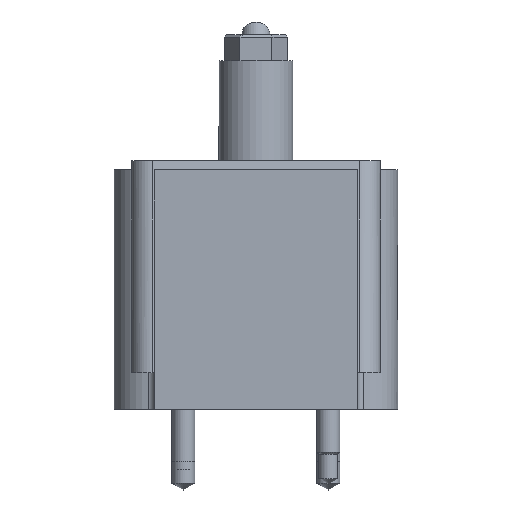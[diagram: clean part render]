
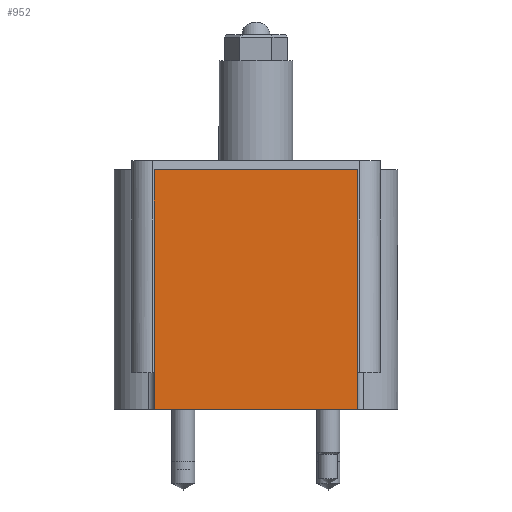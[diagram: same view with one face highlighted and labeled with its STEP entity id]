
A CAD part, left-side view. The second image highlights one B-rep face of the part: STEP entity #952.
In plain terms, the highlighted planar face has unit normal (-1, 0, 0).
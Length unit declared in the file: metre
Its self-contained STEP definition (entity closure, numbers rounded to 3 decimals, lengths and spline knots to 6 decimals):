
#952=ADVANCED_FACE('',(#2029),#2030,.T.);
#2029=FACE_OUTER_BOUND('',#3830,.T.);
#2030=PLANE('',#3831);
#3830=EDGE_LOOP('',(#14097,#14098,#14099,#14100));
#3831=AXIS2_PLACEMENT_3D('',#14101,#14102,#14103);
#14097=ORIENTED_EDGE('',*,*,#16066,.F.);
#14098=ORIENTED_EDGE('',*,*,#16049,.T.);
#14099=ORIENTED_EDGE('',*,*,#16045,.F.);
#14100=ORIENTED_EDGE('',*,*,#16028,.T.);
#14101=CARTESIAN_POINT('',(-0.084201,0.0,0.0));
#14102=DIRECTION('',(-1.0,0.0,0.0));
#14103=DIRECTION('',(0.0,0.0,1.0));
#16028=EDGE_CURVE('',#16966,#16964,#16967,.T.);
#16045=EDGE_CURVE('',#16966,#16992,#16993,.F.);
#16049=EDGE_CURVE('',#16998,#16992,#16999,.T.);
#16066=EDGE_CURVE('',#16998,#16964,#17023,.F.);
#16964=VERTEX_POINT('',#18267);
#16966=VERTEX_POINT('',#18270);
#16967=LINE('',#18271,#18272);
#16992=VERTEX_POINT('',#18304);
#16993=LINE('',#18305,#18306);
#16998=VERTEX_POINT('',#18313);
#16999=LINE('',#18314,#18315);
#17023=LINE('',#18345,#18346);
#18267=CARTESIAN_POINT('',(-0.084201,0.034988,0.08255));
#18270=CARTESIAN_POINT('',(-0.084201,-0.034988,0.08255));
#18271=CARTESIAN_POINT('',(-0.084201,0.0,0.08255));
#18272=VECTOR('',#21996,1.0);
#18304=CARTESIAN_POINT('',(-0.084201,-0.034988,0.0));
#18305=CARTESIAN_POINT('',(-0.084201,-0.034988,0.0));
#18306=VECTOR('',#22019,1.0);
#18313=CARTESIAN_POINT('',(-0.084201,0.034988,0.0));
#18314=CARTESIAN_POINT('',(-0.084201,0.0,0.0));
#18315=VECTOR('',#22022,1.0);
#18345=CARTESIAN_POINT('',(-0.084201,0.034988,0.0));
#18346=VECTOR('',#22047,1.0);
#21996=DIRECTION('',(0.0,1.0,0.0));
#22019=DIRECTION('',(0.0,0.0,1.0));
#22022=DIRECTION('',(-0.0,-1.0,-0.0));
#22047=DIRECTION('',(0.0,0.0,-1.0));
